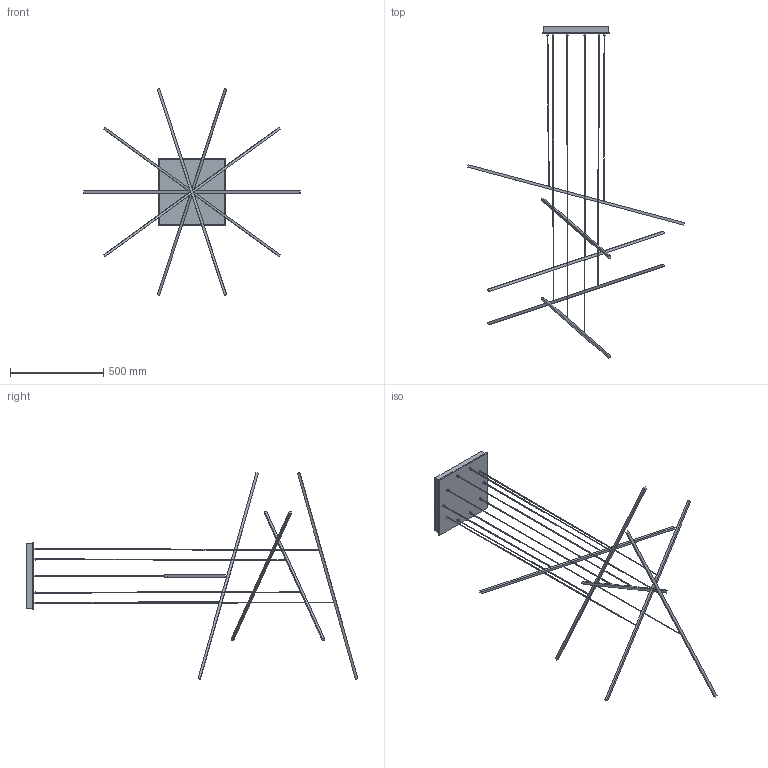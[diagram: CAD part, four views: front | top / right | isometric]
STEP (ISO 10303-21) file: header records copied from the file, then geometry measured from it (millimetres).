
FILE_DESCRIPTION (( 'STEP AP214' ), '1' );
FILE_NAME ('MP18205.STEP', '2019-06-17T19:48:36', ( '' ), ( '' ), 'SwSTEP 2.0', 'SolidWorks 2018', '' );
FILE_SCHEMA (( 'AUTOMOTIVE_DESIGN' ));
Length unit declared in the file: inch
Products named in the file (4): Wires^MP18205; LAMPHEAD; CANOPY; MP18205
Assembly tree (7 placements, depth 2):
  MP18205
    CANOPY
    LAMPHEAD  x5
    Wires^MP18205
Bounding box: 1162.62 x 1777.66 x 1109.74 mm (x, y, z)
Volume: 6265405 mm3; surface area: 788367.7 mm2
Topology: 16 solids, 16 shells, 111 faces, 204 edges, 136 vertices
Faces by surface type: plane 71, cylinder 40
Entity records: 2533 total; most frequent: DIRECTION 430, CARTESIAN_POINT 357, ORIENTED_EDGE 312, AXIS2_PLACEMENT_3D 177, EDGE_CURVE 156, VERTEX_POINT 104, EDGE_LOOP 98, FACE_OUTER_BOUND 87
